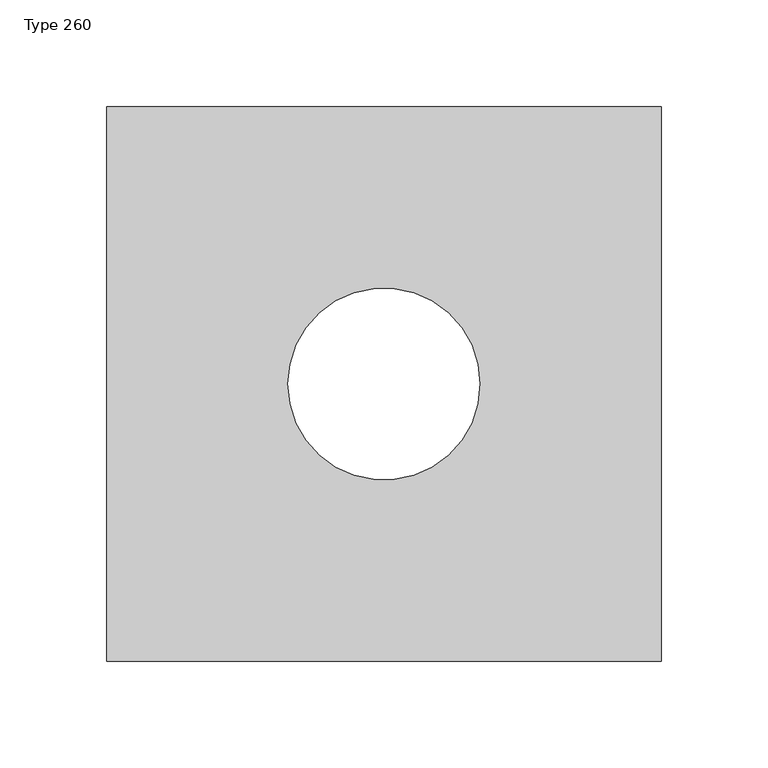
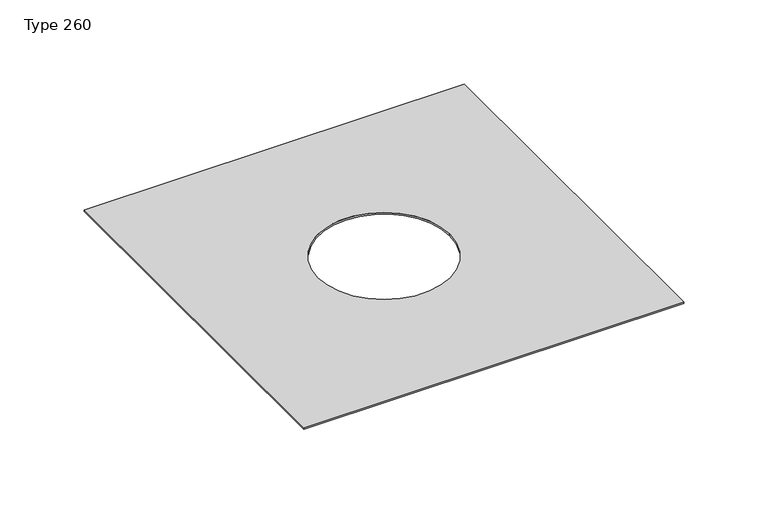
"""IFC4 building model written with IfcOpenShell, lengths in millimetres: proxy geometry, Dafa_Hi-tack_Pipe_Collar : Type 260."""

from ifc_helpers import new_model, si_unit, point, origin, origin_with_axes, origin_2d, place, context, project, spatial, polyline, circle_curve, trimmed, segment, composite_curve, outline, extrude, source, transform, mapped, element, save


def type_260_10d892fd(model_context):
    return source(origin(), model_context, "Body", "SweptSolid", [
        extrude(outline(polyline([(130.0, 130.0), (130.0, -130.0), (-130.0, -130.0), (-130.0, 130.0), (130.0, 130.0)]), holes=[composite_curve([segment(trimmed(circle_curve(origin_2d(), 45.0), [point((-45.0, 0.0))], [point((45.0, 0.0))], True, "CARTESIAN"), True, "CONTINUOUS"), segment(trimmed(circle_curve(origin_2d(), 45.0), [point((45.0, 0.0))], [point((-45.0, 0.0))], True, "CARTESIAN"), True, "CONTINUOUS")], self_intersect=False)]), origin_with_axes(), (0.0, 0.0, 1.0), 1.2),
    ])


if __name__ == "__main__":
    model = new_model("IFC4")
    model_context = context("Model", 3, world=origin())
    ifc_project = project(units=[si_unit("LENGTHUNIT", "METRE", prefix="MILLI")], contexts=[model_context])
    site = spatial("IfcSite", under=ifc_project)
    building = spatial("IfcBuilding", under=site)
    placement = place(None, origin())
    type_260_shape = type_260_10d892fd(model_context)
    element("IfcBuildingElementProxy", 1, Name="Dafa_Hi-tack_Pipe_Collar : Type 260", ObjectType="Dafa_Hi-tack_Pipe_Collar : Type 260", at=placement, inside=building, context=model_context, shape_type="MappedRepresentation", body=[
        mapped(type_260_shape, transform((0.0, 0.0, 0.0), x_axis=(1.0, 0.0, 0.0), y_axis=(0.0, 1.0, 0.0), z_axis=(0.0, 0.0, 1.0))),
    ])
    save(model, "model.ifc")
